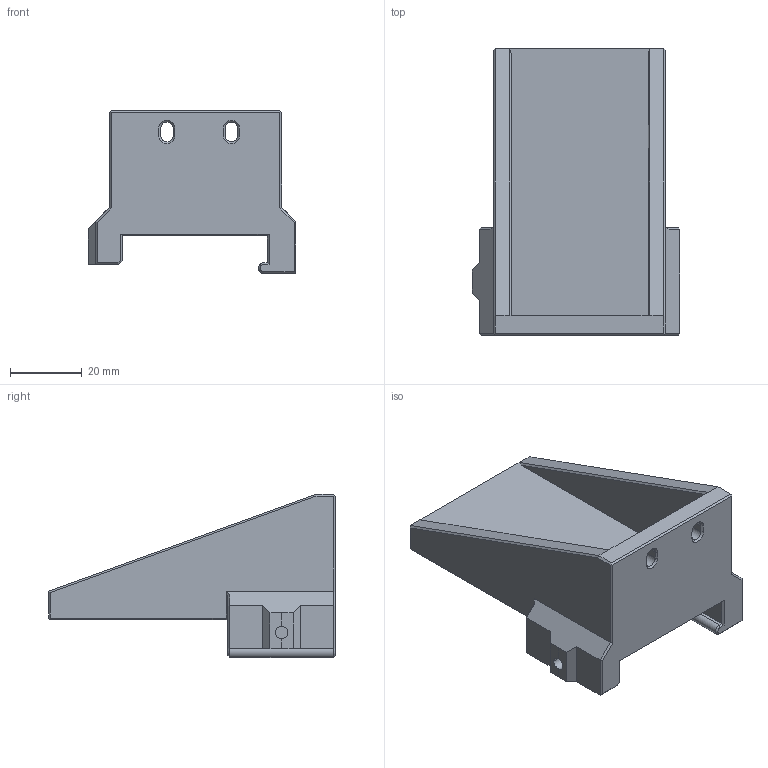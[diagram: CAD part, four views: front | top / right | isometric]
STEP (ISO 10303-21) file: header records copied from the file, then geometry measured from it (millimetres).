
FILE_DESCRIPTION(('CATIA V5 STEP Exchange'),'2;1');
FILE_NAME('D:\_이전 노트북\Cremaker모델링\Cremaker_profile-Metal(5차)-(Final)\Power-holder.stp','2020-10-23T05:22:48+00:00',('none'),('none'),'CATIA Version 5 Release 20 GA (IN-10)','CATIA V5 STEP AP203','none');
FILE_SCHEMA(('CONFIG_CONTROL_DESIGN'));
Length unit declared in the file: millimetre
Products named in the file (1): Power-holder
Bounding box: 58 x 80 x 45.5 mm (x, y, z)
Volume: 53397.1 mm3; surface area: 18364.4 mm2
Topology: 1 solids, 1 shells, 106 faces, 266 edges, 162 vertices
Faces by surface type: plane 89, cone 10, cylinder 7
Entity records: 3024 total; most frequent: CARTESIAN_POINT 577, ORIENTED_EDGE 532, DIRECTION 421, EDGE_CURVE 266, VECTOR 193, LINE 193, VERTEX_POINT 162, AXIS2_PLACEMENT_3D 128
